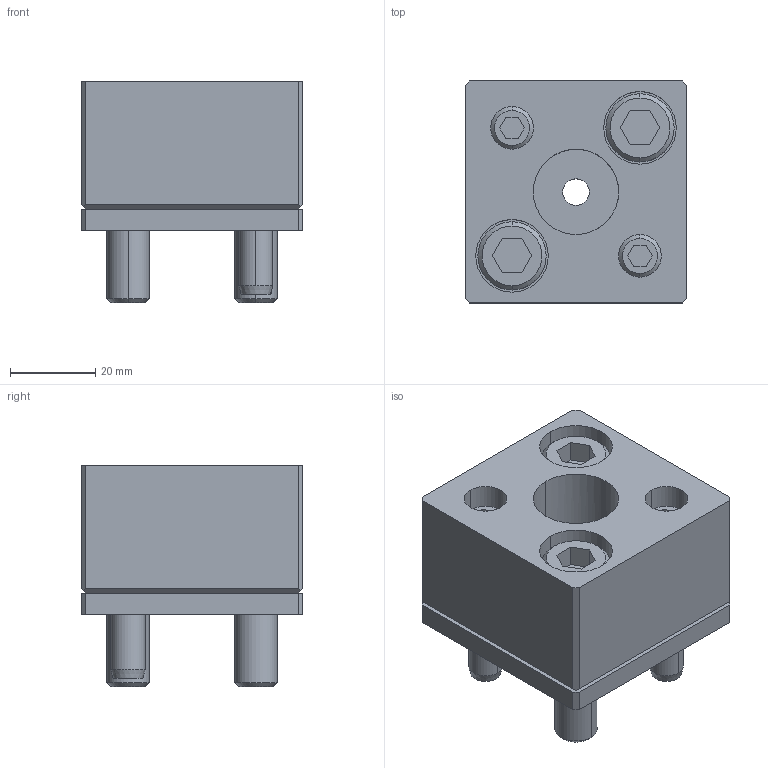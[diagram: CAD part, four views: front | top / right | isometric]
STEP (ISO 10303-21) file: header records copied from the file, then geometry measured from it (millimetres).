
FILE_DESCRIPTION(/* description */ (''),/* implementation_level */ '2;1');
FILE_NAME(/* name */ '3d_sr-fp20_05492_r00.stp',/* time_stamp */ '2011-01-10T14:09:57+09:00',/* author */ ('MISUMI'),/* organization */ (''),/* preprocessor_version */ 'ST-DEVELOPER v11',/* originating_system */ 'UGS - NX 5.0',/* authorisation */ '');
FILE_SCHEMA (('CONFIG_CONTROL_DESIGN'));
Length unit declared in the file: millimetre
Products named in the file (1): 3d_sr-fp20_05492_r00
Bounding box: 52 x 52 x 52 mm (x, y, z)
Volume: 83243 mm3; surface area: 30292.1 mm2
Topology: 8 solids, 8 shells, 159 faces, 364 edges, 235 vertices
Faces by surface type: plane 78, cylinder 55, cone 26
Entity records: 4634 total; most frequent: DIRECTION 814, CARTESIAN_POINT 804, ORIENTED_EDGE 728, EDGE_CURVE 364, AXIS2_PLACEMENT_3D 297, VERTEX_POINT 235, LINE 220, VECTOR 220
